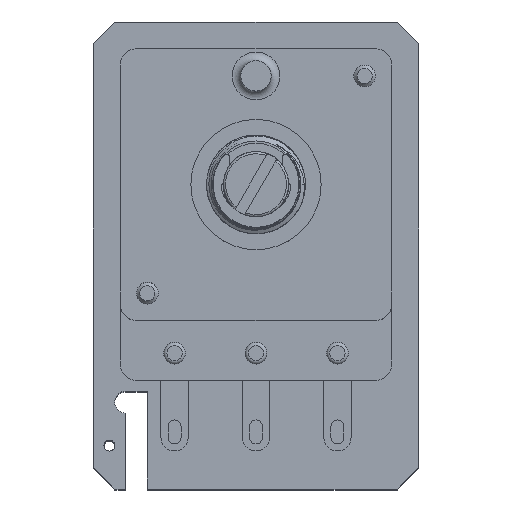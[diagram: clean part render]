
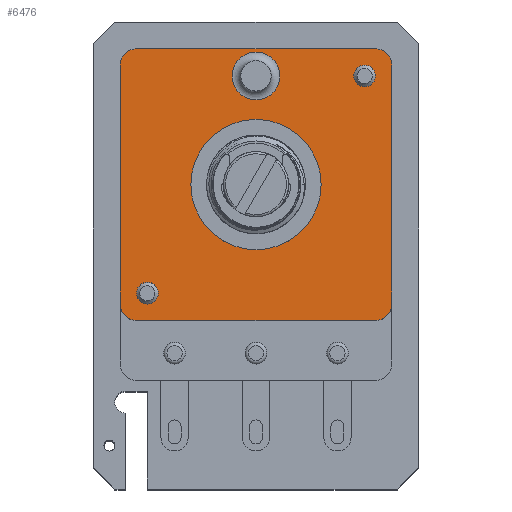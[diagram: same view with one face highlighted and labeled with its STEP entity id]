
A CAD part, top view. The second image highlights one B-rep face of the part: STEP entity #6476.
In plain terms, the highlighted planar face has unit normal (0, 0, 1).
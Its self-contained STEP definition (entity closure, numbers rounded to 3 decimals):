
#6434 = EDGE_CURVE('',#6435,#6435,#6437,.T.);
#6435 = VERTEX_POINT('',#6436);
#6436 = CARTESIAN_POINT('',(6.,0.,-1.));
#6437 = CIRCLE('',#6438,6.);
#6438 = AXIS2_PLACEMENT_3D('',#6439,#6440,#6441);
#6439 = CARTESIAN_POINT('',(0.,0.,-1.));
#6440 = DIRECTION('',(0.,0.,1.));
#6441 = DIRECTION('',(1.,0.,-0.));
#6476 = ADVANCED_FACE('',(#6477,#6547,#6558,#6561,#6572),#6583,.T.);
#6477 = FACE_BOUND('',#6478,.T.);
#6478 = EDGE_LOOP('',(#6479,#6489,#6498,#6506,#6515,#6523,#6532,#6540));
#6479 = ORIENTED_EDGE('',*,*,#6480,.F.);
#6480 = EDGE_CURVE('',#6481,#6483,#6485,.T.);
#6481 = VERTEX_POINT('',#6482);
#6482 = CARTESIAN_POINT('',(-12.5,-11.,-1.));
#6483 = VERTEX_POINT('',#6484);
#6484 = CARTESIAN_POINT('',(-12.5,11.,-1.));
#6485 = LINE('',#6486,#6487);
#6486 = CARTESIAN_POINT('',(-12.5,-12.5,-1.));
#6487 = VECTOR('',#6488,1.);
#6488 = DIRECTION('',(0.,1.,0.));
#6489 = ORIENTED_EDGE('',*,*,#6490,.T.);
#6490 = EDGE_CURVE('',#6481,#6491,#6493,.T.);
#6491 = VERTEX_POINT('',#6492);
#6492 = CARTESIAN_POINT('',(-11.,-12.5,-1.));
#6493 = CIRCLE('',#6494,1.5);
#6494 = AXIS2_PLACEMENT_3D('',#6495,#6496,#6497);
#6495 = CARTESIAN_POINT('',(-11.,-11.,-1.));
#6496 = DIRECTION('',(-0.,0.,1.));
#6497 = DIRECTION('',(0.,-1.,0.));
#6498 = ORIENTED_EDGE('',*,*,#6499,.T.);
#6499 = EDGE_CURVE('',#6491,#6500,#6502,.T.);
#6500 = VERTEX_POINT('',#6501);
#6501 = CARTESIAN_POINT('',(11.,-12.5,-1.));
#6502 = LINE('',#6503,#6504);
#6503 = CARTESIAN_POINT('',(-12.5,-12.5,-1.));
#6504 = VECTOR('',#6505,1.);
#6505 = DIRECTION('',(1.,0.,0.));
#6506 = ORIENTED_EDGE('',*,*,#6507,.T.);
#6507 = EDGE_CURVE('',#6500,#6508,#6510,.T.);
#6508 = VERTEX_POINT('',#6509);
#6509 = CARTESIAN_POINT('',(12.5,-11.,-1.));
#6510 = CIRCLE('',#6511,1.5);
#6511 = AXIS2_PLACEMENT_3D('',#6512,#6513,#6514);
#6512 = CARTESIAN_POINT('',(11.,-11.,-1.));
#6513 = DIRECTION('',(-0.,0.,1.));
#6514 = DIRECTION('',(0.,-1.,0.));
#6515 = ORIENTED_EDGE('',*,*,#6516,.T.);
#6516 = EDGE_CURVE('',#6508,#6517,#6519,.T.);
#6517 = VERTEX_POINT('',#6518);
#6518 = CARTESIAN_POINT('',(12.5,11.,-1.));
#6519 = LINE('',#6520,#6521);
#6520 = CARTESIAN_POINT('',(12.5,-12.5,-1.));
#6521 = VECTOR('',#6522,1.);
#6522 = DIRECTION('',(0.,1.,0.));
#6523 = ORIENTED_EDGE('',*,*,#6524,.F.);
#6524 = EDGE_CURVE('',#6525,#6517,#6527,.T.);
#6525 = VERTEX_POINT('',#6526);
#6526 = CARTESIAN_POINT('',(11.,12.5,-1.));
#6527 = CIRCLE('',#6528,1.5);
#6528 = AXIS2_PLACEMENT_3D('',#6529,#6530,#6531);
#6529 = CARTESIAN_POINT('',(11.,11.,-1.));
#6530 = DIRECTION('',(-0.,-0.,-1.));
#6531 = DIRECTION('',(0.,-1.,0.));
#6532 = ORIENTED_EDGE('',*,*,#6533,.F.);
#6533 = EDGE_CURVE('',#6534,#6525,#6536,.T.);
#6534 = VERTEX_POINT('',#6535);
#6535 = CARTESIAN_POINT('',(-11.,12.5,-1.));
#6536 = LINE('',#6537,#6538);
#6537 = CARTESIAN_POINT('',(-12.5,12.5,-1.));
#6538 = VECTOR('',#6539,1.);
#6539 = DIRECTION('',(1.,0.,0.));
#6540 = ORIENTED_EDGE('',*,*,#6541,.F.);
#6541 = EDGE_CURVE('',#6483,#6534,#6542,.T.);
#6542 = CIRCLE('',#6543,1.5);
#6543 = AXIS2_PLACEMENT_3D('',#6544,#6545,#6546);
#6544 = CARTESIAN_POINT('',(-11.,11.,-1.));
#6545 = DIRECTION('',(-0.,-0.,-1.));
#6546 = DIRECTION('',(0.,-1.,0.));
#6547 = FACE_BOUND('',#6548,.T.);
#6548 = EDGE_LOOP('',(#6549));
#6549 = ORIENTED_EDGE('',*,*,#6550,.T.);
#6550 = EDGE_CURVE('',#6551,#6551,#6553,.T.);
#6551 = VERTEX_POINT('',#6552);
#6552 = CARTESIAN_POINT('',(-9.,-10.,-1.));
#6553 = CIRCLE('',#6554,1.);
#6554 = AXIS2_PLACEMENT_3D('',#6555,#6556,#6557);
#6555 = CARTESIAN_POINT('',(-10.,-10.,-1.));
#6556 = DIRECTION('',(0.,0.,-1.));
#6557 = DIRECTION('',(1.,0.,0.));
#6558 = FACE_BOUND('',#6559,.T.);
#6559 = EDGE_LOOP('',(#6560));
#6560 = ORIENTED_EDGE('',*,*,#6434,.F.);
#6561 = FACE_BOUND('',#6562,.T.);
#6562 = EDGE_LOOP('',(#6563));
#6563 = ORIENTED_EDGE('',*,*,#6564,.F.);
#6564 = EDGE_CURVE('',#6565,#6565,#6567,.T.);
#6565 = VERTEX_POINT('',#6566);
#6566 = CARTESIAN_POINT('',(2.2,10.,-1.));
#6567 = CIRCLE('',#6568,2.2);
#6568 = AXIS2_PLACEMENT_3D('',#6569,#6570,#6571);
#6569 = CARTESIAN_POINT('',(0.,10.,-1.));
#6570 = DIRECTION('',(0.,0.,1.));
#6571 = DIRECTION('',(1.,0.,-0.));
#6572 = FACE_BOUND('',#6573,.T.);
#6573 = EDGE_LOOP('',(#6574));
#6574 = ORIENTED_EDGE('',*,*,#6575,.T.);
#6575 = EDGE_CURVE('',#6576,#6576,#6578,.T.);
#6576 = VERTEX_POINT('',#6577);
#6577 = CARTESIAN_POINT('',(11.,10.,-1.));
#6578 = CIRCLE('',#6579,1.);
#6579 = AXIS2_PLACEMENT_3D('',#6580,#6581,#6582);
#6580 = CARTESIAN_POINT('',(10.,10.,-1.));
#6581 = DIRECTION('',(0.,0.,-1.));
#6582 = DIRECTION('',(1.,0.,0.));
#6583 = PLANE('',#6584);
#6584 = AXIS2_PLACEMENT_3D('',#6585,#6586,#6587);
#6585 = CARTESIAN_POINT('',(-12.5,-12.5,-1.));
#6586 = DIRECTION('',(0.,0.,1.));
#6587 = DIRECTION('',(1.,0.,-0.));
